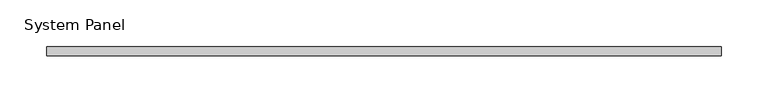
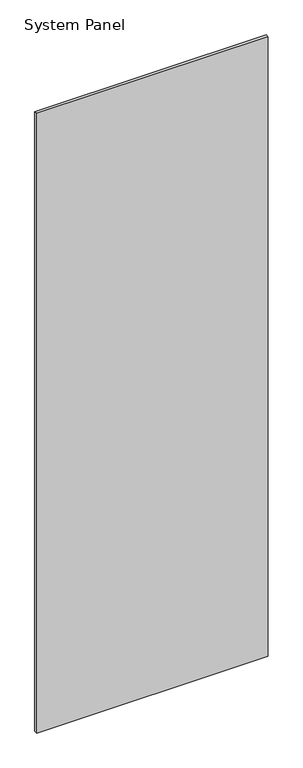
"""IFC4 building model written with IfcOpenShell, lengths in millimetres: plate geometry, System Panel : стекло_смещение_0."""

from ifc_helpers import new_model, si_unit, origin, origin_with_axes, place, context, project, spatial, polyline, outline, extrude, source, transform, mapped, element, save


def system_panel_e682b4c2(model_context):
    return source(origin(), model_context, "Body", "SweptSolid", [
        extrude(outline(polyline([(362.5, -5.0), (-362.5, -5.0), (-362.5, 5.0), (362.5, 5.0), (362.5, -5.0)])), origin_with_axes(), (0.0, 0.0, 1.0), 2050.0),
    ])


if __name__ == "__main__":
    model = new_model("IFC4")
    model_context = context("Model", 3, world=origin())
    ifc_project = project(units=[si_unit("LENGTHUNIT", "METRE", prefix="MILLI")], contexts=[model_context])
    site = spatial("IfcSite", under=ifc_project)
    building = spatial("IfcBuilding", under=site)
    placement = place(None, origin())
    system_panel_shape = system_panel_e682b4c2(model_context)
    element("IfcPlate", 1, ObjectType="System Panel : стекло_смещение_0", at=placement, inside=building, context=model_context, shape_type="MappedRepresentation", body=[
        mapped(system_panel_shape, transform((0.0, 0.0, 0.0), x_axis=(1.0, 0.0, 0.0), y_axis=(0.0, 1.0, 0.0), z_axis=(0.0, 0.0, 1.0))),
    ])
    save(model, "model.ifc")
